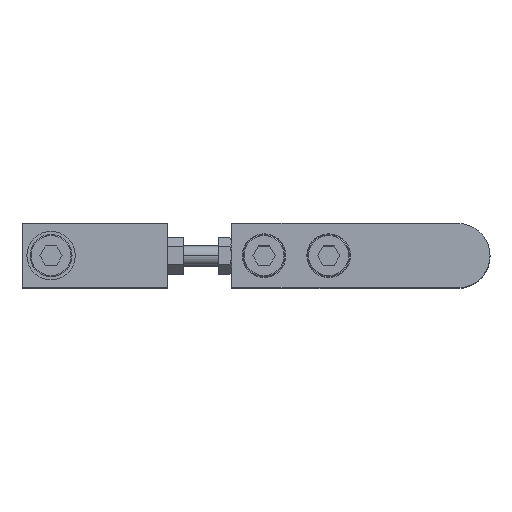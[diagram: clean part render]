
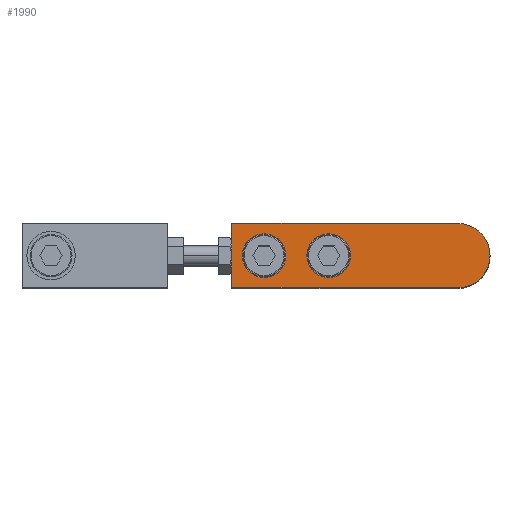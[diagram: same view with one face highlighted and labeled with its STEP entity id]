
A CAD part, top view. The second image highlights one B-rep face of the part: STEP entity #1990.
In plain terms, the highlighted planar face has unit normal (0, 0, 1) as drawn and (0, 0, -1) by its records, which use the part's own axes.
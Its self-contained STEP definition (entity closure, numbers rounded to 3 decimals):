
#83 = EDGE_CURVE ( 'NONE', #6670, #713, #6855, .T. ) ;
#223 = DIRECTION ( 'NONE',  ( 1., 0., 0. ) ) ;
#295 = CARTESIAN_POINT ( 'NONE',  ( 70., -10., -5. ) ) ;
#331 = FACE_BOUND ( 'NONE', #3987, .T. ) ;
#419 = DIRECTION ( 'NONE',  ( 0., 0., -1. ) ) ;
#464 = CARTESIAN_POINT ( 'NONE',  ( 53.25, 0., -5. ) ) ;
#519 = ORIENTED_EDGE ( 'NONE', *, *, #2132, .F. ) ;
#572 = AXIS2_PLACEMENT_3D ( 'NONE', #1822, #3524, #5305 ) ;
#597 = EDGE_CURVE ( 'NONE', #713, #6670, #6655, .T. ) ;
#663 = DIRECTION ( 'NONE',  ( -1., 0., 0. ) ) ;
#713 = VERTEX_POINT ( 'NONE', #2647 ) ;
#819 = EDGE_LOOP ( 'NONE', ( #6284, #4111 ) ) ;
#918 = VERTEX_POINT ( 'NONE', #3387 ) ;
#1024 = DIRECTION ( 'NONE',  ( -1., 0., 0. ) ) ;
#1498 = CARTESIAN_POINT ( 'NONE',  ( 70., 10., -5. ) ) ;
#1684 = AXIS2_PLACEMENT_3D ( 'NONE', #7049, #5912, #663 ) ;
#1822 = CARTESIAN_POINT ( 'NONE',  ( 40., 0., -5. ) ) ;
#1876 = CARTESIAN_POINT ( 'NONE',  ( 33.25, 0., -5. ) ) ;
#1990 = ADVANCED_FACE ( 'NONE', ( #331, #3470, #7220 ), #4906, .F. ) ;
#2079 = ORIENTED_EDGE ( 'NONE', *, *, #5345, .F. ) ;
#2132 = EDGE_CURVE ( 'NONE', #5060, #3636, #3238, .T. ) ;
#2305 = VECTOR ( 'NONE', #4652, 1000. ) ;
#2569 = CIRCLE ( 'NONE', #3533, 10. ) ;
#2647 = CARTESIAN_POINT ( 'NONE',  ( 46.75, 0., -5. ) ) ;
#2664 = CIRCLE ( 'NONE', #6147, 6.75 ) ;
#2794 = DIRECTION ( 'NONE',  ( 0., 0., -1. ) ) ;
#2855 = CARTESIAN_POINT ( 'NONE',  ( 0., 10., -5. ) ) ;
#3101 = EDGE_CURVE ( 'NONE', #918, #5060, #7112, .T. ) ;
#3238 = LINE ( 'NONE', #3261, #7254 ) ;
#3261 = CARTESIAN_POINT ( 'NONE',  ( 0., -10., -5. ) ) ;
#3387 = CARTESIAN_POINT ( 'NONE',  ( -10., 0., -5. ) ) ;
#3470 = FACE_BOUND ( 'NONE', #819, .T. ) ;
#3524 = DIRECTION ( 'NONE',  ( 0., 0., -1. ) ) ;
#3533 = AXIS2_PLACEMENT_3D ( 'NONE', #5723, #4576, #5127 ) ;
#3636 = VERTEX_POINT ( 'NONE', #295 ) ;
#3916 = AXIS2_PLACEMENT_3D ( 'NONE', #5730, #2794, #1024 ) ;
#3960 = CARTESIAN_POINT ( 'NONE',  ( 66.75, 0., -5. ) ) ;
#3987 = EDGE_LOOP ( 'NONE', ( #2079, #6245 ) ) ;
#4111 = ORIENTED_EDGE ( 'NONE', *, *, #597, .F. ) ;
#4124 = ORIENTED_EDGE ( 'NONE', *, *, #5079, .F. ) ;
#4132 = ORIENTED_EDGE ( 'NONE', *, *, #7076, .F. ) ;
#4358 = CARTESIAN_POINT ( 'NONE',  ( 60., 0., -5. ) ) ;
#4477 = ORIENTED_EDGE ( 'NONE', *, *, #4913, .F. ) ;
#4504 = ORIENTED_EDGE ( 'NONE', *, *, #3101, .F. ) ;
#4576 = DIRECTION ( 'NONE',  ( 0., 0., 1. ) ) ;
#4652 = DIRECTION ( 'NONE',  ( -1., 0., 0. ) ) ;
#4684 = VERTEX_POINT ( 'NONE', #6380 ) ;
#4906 = PLANE ( 'NONE',  #6254 ) ;
#4913 = EDGE_CURVE ( 'NONE', #3636, #4684, #5324, .T. ) ;
#4964 = CARTESIAN_POINT ( 'NONE',  ( 0., 0., -5. ) ) ;
#4975 = DIRECTION ( 'NONE',  ( 1., 0., 0. ) ) ;
#5060 = VERTEX_POINT ( 'NONE', #6301 ) ;
#5064 = DIRECTION ( 'NONE',  ( 0., 0., 1. ) ) ;
#5079 = EDGE_CURVE ( 'NONE', #5799, #918, #2569, .T. ) ;
#5127 = DIRECTION ( 'NONE',  ( 1., 0., 0. ) ) ;
#5167 = DIRECTION ( 'NONE',  ( -1., 0., 0. ) ) ;
#5209 = VERTEX_POINT ( 'NONE', #3960 ) ;
#5305 = DIRECTION ( 'NONE',  ( -1., 0., 0. ) ) ;
#5324 = LINE ( 'NONE', #1498, #5586 ) ;
#5345 = EDGE_CURVE ( 'NONE', #5346, #5209, #6031, .T. ) ;
#5346 = VERTEX_POINT ( 'NONE', #464 ) ;
#5586 = VECTOR ( 'NONE', #6802, 1000. ) ;
#5623 = CARTESIAN_POINT ( 'NONE',  ( 0., 0., -5. ) ) ;
#5723 = CARTESIAN_POINT ( 'NONE',  ( 0., 0., -5. ) ) ;
#5727 = EDGE_LOOP ( 'NONE', ( #4124, #4132, #4477, #519, #4504 ) ) ;
#5730 = CARTESIAN_POINT ( 'NONE',  ( 60., 0., -5. ) ) ;
#5799 = VERTEX_POINT ( 'NONE', #7474 ) ;
#5912 = DIRECTION ( 'NONE',  ( 0., 0., -1. ) ) ;
#6031 = CIRCLE ( 'NONE', #3916, 6.75 ) ;
#6070 = DIRECTION ( 'NONE',  ( 0., 0., 1. ) ) ;
#6147 = AXIS2_PLACEMENT_3D ( 'NONE', #4358, #419, #5167 ) ;
#6212 = DIRECTION ( 'NONE',  ( 1., 0., 0. ) ) ;
#6245 = ORIENTED_EDGE ( 'NONE', *, *, #7165, .F. ) ;
#6254 = AXIS2_PLACEMENT_3D ( 'NONE', #4964, #6070, #223 ) ;
#6284 = ORIENTED_EDGE ( 'NONE', *, *, #83, .F. ) ;
#6301 = CARTESIAN_POINT ( 'NONE',  ( 0., -10., -5. ) ) ;
#6380 = CARTESIAN_POINT ( 'NONE',  ( 70., 10., -5. ) ) ;
#6655 = CIRCLE ( 'NONE', #1684, 6.75 ) ;
#6670 = VERTEX_POINT ( 'NONE', #1876 ) ;
#6681 = AXIS2_PLACEMENT_3D ( 'NONE', #5623, #5064, #4975 ) ;
#6802 = DIRECTION ( 'NONE',  ( 0., 1., 0. ) ) ;
#6855 = CIRCLE ( 'NONE', #572, 6.75 ) ;
#7049 = CARTESIAN_POINT ( 'NONE',  ( 40., 0., -5. ) ) ;
#7076 = EDGE_CURVE ( 'NONE', #4684, #5799, #7315, .T. ) ;
#7112 = CIRCLE ( 'NONE', #6681, 10. ) ;
#7165 = EDGE_CURVE ( 'NONE', #5209, #5346, #2664, .T. ) ;
#7220 = FACE_OUTER_BOUND ( 'NONE', #5727, .T. ) ;
#7254 = VECTOR ( 'NONE', #6212, 1000. ) ;
#7315 = LINE ( 'NONE', #2855, #2305 ) ;
#7474 = CARTESIAN_POINT ( 'NONE',  ( 0., 10., -5. ) ) ;
